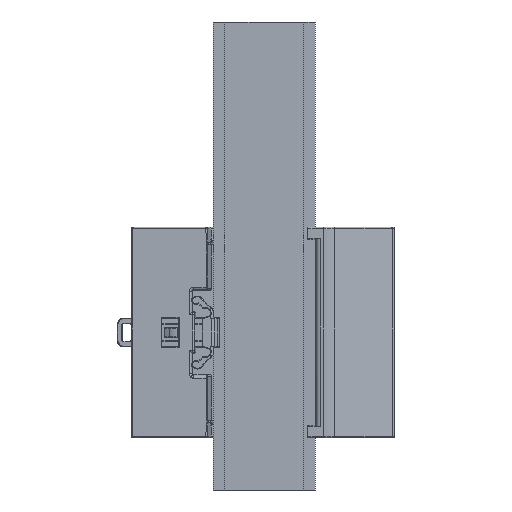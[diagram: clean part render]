
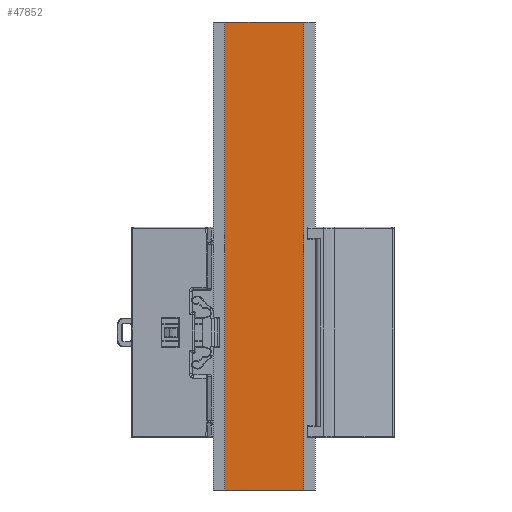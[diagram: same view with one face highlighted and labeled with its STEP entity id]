
A CAD part, front view. The second image highlights one B-rep face of the part: STEP entity #47852.
In plain terms, the highlighted planar face has unit normal (0, -1, 0).
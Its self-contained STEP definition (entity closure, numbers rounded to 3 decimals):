
#6029 = CARTESIAN_POINT ( 'NONE',  ( 0.3, -7.5, 106.159 ) ) ;
#6311 = VECTOR ( 'NONE', #50393, 1000. ) ;
#6561 = LINE ( 'NONE', #79496, #123458 ) ;
#10128 = EDGE_CURVE ( 'NONE', #89324, #83175, #30977, .T. ) ;
#11691 = EDGE_CURVE ( 'NONE', #90106, #89324, #6561, .T. ) ;
#12884 = FACE_OUTER_BOUND ( 'NONE', #19714, .T. ) ;
#15966 = DIRECTION ( 'NONE',  ( -1., 0., 0. ) ) ;
#19714 = EDGE_LOOP ( 'NONE', ( #124061, #33334, #119904, #26692 ) ) ;
#23918 = EDGE_CURVE ( 'NONE', #116921, #90106, #81276, .T. ) ;
#26692 = ORIENTED_EDGE ( 'NONE', *, *, #11691, .F. ) ;
#30977 = LINE ( 'NONE', #49779, #6311 ) ;
#32337 = CARTESIAN_POINT ( 'NONE',  ( 0.3, -7.5, 106.159 ) ) ;
#33334 = ORIENTED_EDGE ( 'NONE', *, *, #81698, .F. ) ;
#34930 = CARTESIAN_POINT ( 'NONE',  ( -13.2, -7.5, 106.159 ) ) ;
#35282 = VECTOR ( 'NONE', #90033, 1000. ) ;
#42377 = CARTESIAN_POINT ( 'NONE',  ( -13.2, -7.5, 106.159 ) ) ;
#47596 = VECTOR ( 'NONE', #90694, 1000. ) ;
#47852 = ADVANCED_FACE ( 'NONE', ( #12884 ), #118236, .F. ) ;
#49779 = CARTESIAN_POINT ( 'NONE',  ( 0.3, -7.5, -53.841 ) ) ;
#50393 = DIRECTION ( 'NONE',  ( -1., 0., 0. ) ) ;
#52252 = CARTESIAN_POINT ( 'NONE',  ( 13.8, -7.5, -53.841 ) ) ;
#70542 = DIRECTION ( 'NONE',  ( 0., 1., 0. ) ) ;
#74619 = AXIS2_PLACEMENT_3D ( 'NONE', #32337, #70542, #15966 ) ;
#79496 = CARTESIAN_POINT ( 'NONE',  ( 13.8, -7.5, 106.159 ) ) ;
#81276 = LINE ( 'NONE', #6029, #47596 ) ;
#81698 = EDGE_CURVE ( 'NONE', #83175, #116921, #118275, .T. ) ;
#83175 = VERTEX_POINT ( 'NONE', #99299 ) ;
#89324 = VERTEX_POINT ( 'NONE', #52252 ) ;
#90033 = DIRECTION ( 'NONE',  ( 0., 0., 1. ) ) ;
#90106 = VERTEX_POINT ( 'NONE', #122182 ) ;
#90694 = DIRECTION ( 'NONE',  ( 1., 0., 0. ) ) ;
#99299 = CARTESIAN_POINT ( 'NONE',  ( -13.2, -7.5, -53.841 ) ) ;
#107732 = DIRECTION ( 'NONE',  ( 0., 0., -1. ) ) ;
#116921 = VERTEX_POINT ( 'NONE', #34930 ) ;
#118236 = PLANE ( 'NONE',  #74619 ) ;
#118275 = LINE ( 'NONE', #42377, #35282 ) ;
#119904 = ORIENTED_EDGE ( 'NONE', *, *, #10128, .F. ) ;
#122182 = CARTESIAN_POINT ( 'NONE',  ( 13.8, -7.5, 106.159 ) ) ;
#123458 = VECTOR ( 'NONE', #107732, 1000. ) ;
#124061 = ORIENTED_EDGE ( 'NONE', *, *, #23918, .F. ) ;
